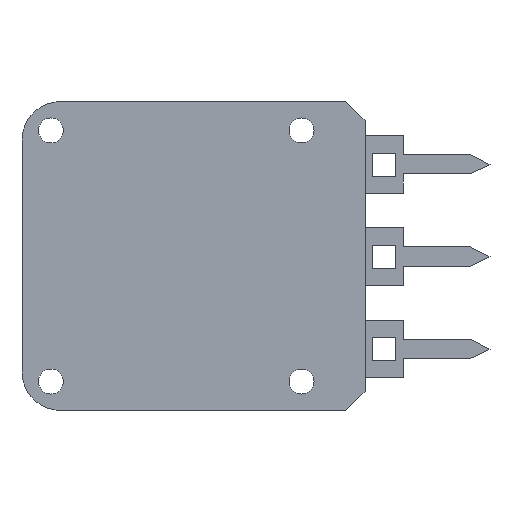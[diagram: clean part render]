
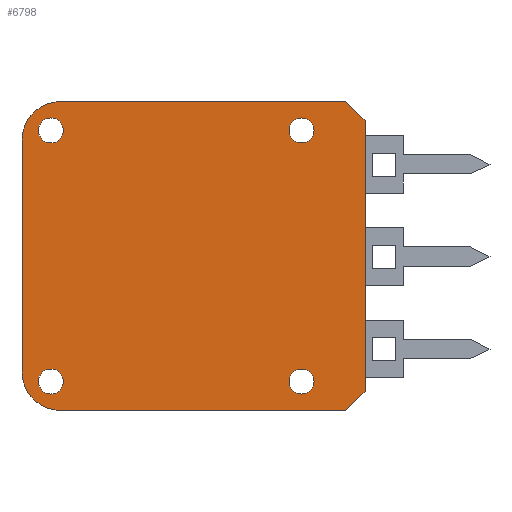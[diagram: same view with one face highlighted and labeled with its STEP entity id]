
A CAD part, front view. The second image highlights one B-rep face of the part: STEP entity #6798.
In plain terms, the highlighted planar face has unit normal (0, -1, 0) as drawn and (0, 1, 0) by its records, which use the part's own axes.
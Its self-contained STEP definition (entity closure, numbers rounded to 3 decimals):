
#389=FACE_BOUND('',#1156,.T.);
#390=FACE_BOUND('',#1157,.T.);
#391=FACE_BOUND('',#1158,.T.);
#392=FACE_BOUND('',#1159,.T.);
#794=FACE_OUTER_BOUND('',#1155,.T.);
#1155=EDGE_LOOP('',(#6102,#6103,#6104,#6105,#6106,#6107,#6108,#6109));
#1156=EDGE_LOOP('',(#6110));
#1157=EDGE_LOOP('',(#6111));
#1158=EDGE_LOOP('',(#6112));
#1159=EDGE_LOOP('',(#6113));
#1564=LINE('',#9572,#2195);
#1570=LINE('',#9583,#2201);
#1587=LINE('',#9622,#2218);
#1598=LINE('',#9661,#2229);
#1601=LINE('',#9670,#2232);
#1792=LINE('',#14878,#2423);
#2195=VECTOR('',#8106,10.);
#2201=VECTOR('',#8114,10.);
#2218=VECTOR('',#8139,10.);
#2229=VECTOR('',#8178,10.);
#2232=VECTOR('',#8187,10.);
#2423=VECTOR('',#8584,10.);
#2518=CIRCLE('',#7096,2.);
#2519=CIRCLE('',#7099,2.);
#2520=CIRCLE('',#7101,0.65);
#2521=CIRCLE('',#7103,0.65);
#2522=CIRCLE('',#7105,0.65);
#2523=CIRCLE('',#7107,0.65);
#2853=VERTEX_POINT('',#9570);
#2854=VERTEX_POINT('',#9571);
#2858=VERTEX_POINT('',#9581);
#2876=VERTEX_POINT('',#9621);
#2890=VERTEX_POINT('',#9659);
#2891=VERTEX_POINT('',#9663);
#2892=VERTEX_POINT('',#9664);
#2893=VERTEX_POINT('',#9669);
#2894=VERTEX_POINT('',#9675);
#2895=VERTEX_POINT('',#9679);
#2896=VERTEX_POINT('',#9683);
#2897=VERTEX_POINT('',#9687);
#3688=EDGE_CURVE('',#2853,#2854,#1564,.T.);
#3694=EDGE_CURVE('',#2853,#2858,#1570,.T.);
#3713=EDGE_CURVE('',#2876,#2858,#1587,.T.);
#3733=EDGE_CURVE('',#2876,#2890,#1598,.T.);
#3734=EDGE_CURVE('',#2891,#2892,#2518,.T.);
#3737=EDGE_CURVE('',#2893,#2892,#1601,.T.);
#3739=EDGE_CURVE('',#2893,#2890,#2519,.T.);
#3741=EDGE_CURVE('',#2894,#2894,#2520,.T.);
#3743=EDGE_CURVE('',#2895,#2895,#2521,.T.);
#3745=EDGE_CURVE('',#2896,#2896,#2522,.T.);
#3747=EDGE_CURVE('',#2897,#2897,#2523,.T.);
#4214=EDGE_CURVE('',#2891,#2854,#1792,.T.);
#6102=ORIENTED_EDGE('',*,*,#3688,.F.);
#6103=ORIENTED_EDGE('',*,*,#3694,.T.);
#6104=ORIENTED_EDGE('',*,*,#3713,.F.);
#6105=ORIENTED_EDGE('',*,*,#3733,.T.);
#6106=ORIENTED_EDGE('',*,*,#3739,.F.);
#6107=ORIENTED_EDGE('',*,*,#3737,.T.);
#6108=ORIENTED_EDGE('',*,*,#3734,.F.);
#6109=ORIENTED_EDGE('',*,*,#4214,.T.);
#6110=ORIENTED_EDGE('',*,*,#3741,.T.);
#6111=ORIENTED_EDGE('',*,*,#3743,.T.);
#6112=ORIENTED_EDGE('',*,*,#3745,.T.);
#6113=ORIENTED_EDGE('',*,*,#3747,.T.);
#6453=PLANE('',#7200);
#6798=ADVANCED_FACE('',(#794,#389,#390,#391,#392),#6453,.T.);
#7096=AXIS2_PLACEMENT_3D('',#9665,#8181,#8182);
#7099=AXIS2_PLACEMENT_3D('',#9673,#8191,#8192);
#7101=AXIS2_PLACEMENT_3D('',#9677,#8196,#8197);
#7103=AXIS2_PLACEMENT_3D('',#9681,#8201,#8202);
#7105=AXIS2_PLACEMENT_3D('',#9685,#8206,#8207);
#7107=AXIS2_PLACEMENT_3D('',#9689,#8211,#8212);
#7200=AXIS2_PLACEMENT_3D('',#14877,#8582,#8583);
#8106=DIRECTION('',(0.707,0.,-0.707));
#8114=DIRECTION('',(0.,0.,1.));
#8139=DIRECTION('',(-0.707,0.,-0.707));
#8178=DIRECTION('',(1.,0.,0.));
#8181=DIRECTION('center_axis',(0.,-1.,0.));
#8182=DIRECTION('ref_axis',(0.707,0.,-0.707));
#8187=DIRECTION('',(0.,0.,-1.));
#8191=DIRECTION('center_axis',(0.,-1.,0.));
#8192=DIRECTION('ref_axis',(0.707,0.,0.707));
#8196=DIRECTION('center_axis',(0.,-1.,0.));
#8197=DIRECTION('ref_axis',(1.,0.,0.));
#8201=DIRECTION('center_axis',(0.,-1.,0.));
#8202=DIRECTION('ref_axis',(1.,0.,0.));
#8206=DIRECTION('center_axis',(0.,-1.,0.));
#8207=DIRECTION('ref_axis',(1.,0.,0.));
#8211=DIRECTION('center_axis',(0.,-1.,0.));
#8212=DIRECTION('ref_axis',(1.,0.,0.));
#8582=DIRECTION('center_axis',(0.,1.,0.));
#8583=DIRECTION('ref_axis',(0.,0.,1.));
#8584=DIRECTION('',(-1.,0.,0.));
#9570=CARTESIAN_POINT('',(-9.82,54.16,-7.03));
#9571=CARTESIAN_POINT('',(-8.82,54.16,-8.03));
#9572=CARTESIAN_POINT('',(-9.098,54.16,-7.753));
#9581=CARTESIAN_POINT('',(-9.82,54.16,7.03));
#9583=CARTESIAN_POINT('',(-9.82,54.16,-8.03));
#9621=CARTESIAN_POINT('',(-8.82,54.16,8.03));
#9622=CARTESIAN_POINT('',(-9.098,54.16,7.752));
#9659=CARTESIAN_POINT('',(6.02,54.16,8.03));
#9661=CARTESIAN_POINT('',(-9.82,54.16,8.03));
#9663=CARTESIAN_POINT('',(6.02,54.16,-8.03));
#9664=CARTESIAN_POINT('',(8.02,54.16,-6.03));
#9665=CARTESIAN_POINT('Origin',(6.02,54.16,-6.03));
#9669=CARTESIAN_POINT('',(8.02,54.16,6.03));
#9670=CARTESIAN_POINT('',(8.02,54.16,8.03));
#9673=CARTESIAN_POINT('Origin',(6.02,54.16,6.03));
#9675=CARTESIAN_POINT('',(-7.17,54.16,-6.53));
#9677=CARTESIAN_POINT('Origin',(-6.52,54.16,-6.53));
#9679=CARTESIAN_POINT('',(-7.17,54.16,6.53));
#9681=CARTESIAN_POINT('Origin',(-6.52,54.16,6.53));
#9683=CARTESIAN_POINT('',(5.87,54.16,-6.53));
#9685=CARTESIAN_POINT('Origin',(6.52,54.16,-6.53));
#9687=CARTESIAN_POINT('',(5.87,54.16,6.53));
#9689=CARTESIAN_POINT('Origin',(6.52,54.16,6.53));
#14877=CARTESIAN_POINT('Origin',(-0.9,54.16,0.));
#14878=CARTESIAN_POINT('',(8.02,54.16,-8.03));
